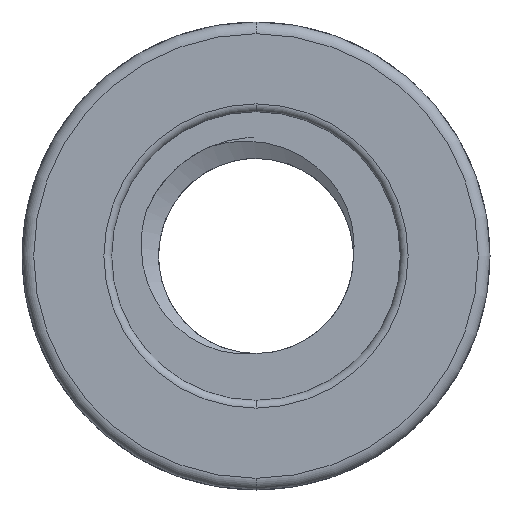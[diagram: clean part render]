
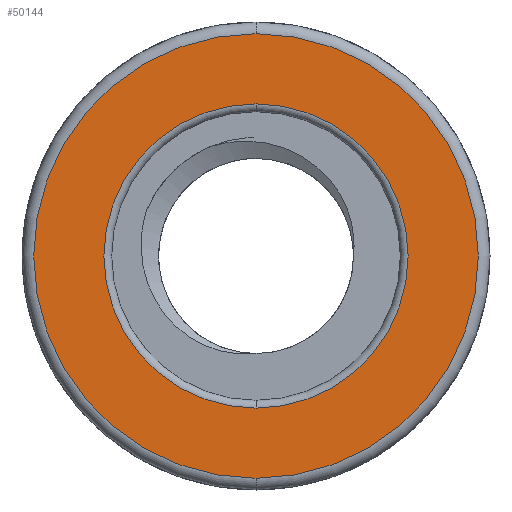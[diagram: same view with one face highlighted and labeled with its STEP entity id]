
A CAD part, front view. The second image highlights one B-rep face of the part: STEP entity #50144.
In plain terms, the highlighted planar face has unit normal (0, -1, 0).
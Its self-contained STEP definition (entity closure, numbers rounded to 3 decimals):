
#302 = EDGE_LOOP ( 'NONE', ( #4304, #44930 ) ) ;
#3355 = VERTEX_POINT ( 'NONE', #31895 ) ;
#4304 = ORIENTED_EDGE ( 'NONE', *, *, #52370, .T. ) ;
#4942 = EDGE_CURVE ( 'NONE', #26073, #3355, #31686, .T. ) ;
#5055 = CARTESIAN_POINT ( 'NONE',  ( 0., 0., 0. ) ) ;
#10519 = CIRCLE ( 'NONE', #51874, 3.9 ) ;
#12058 = CIRCLE ( 'NONE', #21655, 5.7 ) ;
#13452 = DIRECTION ( 'NONE',  ( 0., 1., 0. ) ) ;
#14029 = DIRECTION ( 'NONE',  ( 0., -1., 0. ) ) ;
#15478 = DIRECTION ( 'NONE',  ( 0., 1., 0. ) ) ;
#19506 = DIRECTION ( 'NONE',  ( 0., 0., -1. ) ) ;
#20002 = CARTESIAN_POINT ( 'NONE',  ( 0., 0., 0. ) ) ;
#20694 = ORIENTED_EDGE ( 'NONE', *, *, #56362, .T. ) ;
#21655 = AXIS2_PLACEMENT_3D ( 'NONE', #5055, #56247, #19506 ) ;
#24340 = DIRECTION ( 'NONE',  ( 0., 0., -1. ) ) ;
#24641 = DIRECTION ( 'NONE',  ( 0., -1., 0. ) ) ;
#24718 = AXIS2_PLACEMENT_3D ( 'NONE', #38476, #24641, #24340 ) ;
#24758 = CIRCLE ( 'NONE', #24718, 5.7 ) ;
#24858 = CARTESIAN_POINT ( 'NONE',  ( 0., 0., -3.9 ) ) ;
#26073 = VERTEX_POINT ( 'NONE', #24858 ) ;
#26408 = VERTEX_POINT ( 'NONE', #27541 ) ;
#26414 = FACE_OUTER_BOUND ( 'NONE', #302, .T. ) ;
#26500 = ORIENTED_EDGE ( 'NONE', *, *, #4942, .T. ) ;
#27541 = CARTESIAN_POINT ( 'NONE',  ( 0., 0., 5.7 ) ) ;
#27879 = DIRECTION ( 'NONE',  ( 0., 0., -1. ) ) ;
#28167 = DIRECTION ( 'NONE',  ( 0., 0., -1. ) ) ;
#31686 = CIRCLE ( 'NONE', #41261, 3.9 ) ;
#31895 = CARTESIAN_POINT ( 'NONE',  ( 0., 0., 3.9 ) ) ;
#32091 = CARTESIAN_POINT ( 'NONE',  ( 0., 0., -6. ) ) ;
#33842 = DIRECTION ( 'NONE',  ( 0., 0., -1. ) ) ;
#36478 = VERTEX_POINT ( 'NONE', #53401 ) ;
#36604 = FACE_BOUND ( 'NONE', #38670, .T. ) ;
#38476 = CARTESIAN_POINT ( 'NONE',  ( 0., 0., 0. ) ) ;
#38670 = EDGE_LOOP ( 'NONE', ( #26500, #20694 ) ) ;
#41261 = AXIS2_PLACEMENT_3D ( 'NONE', #59515, #13452, #28167 ) ;
#42775 = AXIS2_PLACEMENT_3D ( 'NONE', #32091, #14029, #27879 ) ;
#44930 = ORIENTED_EDGE ( 'NONE', *, *, #49873, .T. ) ;
#49873 = EDGE_CURVE ( 'NONE', #26408, #36478, #12058, .T. ) ;
#50144 = ADVANCED_FACE ( 'NONE', ( #36604, #26414 ), #55000, .T. ) ;
#51874 = AXIS2_PLACEMENT_3D ( 'NONE', #20002, #15478, #33842 ) ;
#52370 = EDGE_CURVE ( 'NONE', #36478, #26408, #24758, .T. ) ;
#53401 = CARTESIAN_POINT ( 'NONE',  ( 0., 0., -5.7 ) ) ;
#55000 = PLANE ( 'NONE',  #42775 ) ;
#56247 = DIRECTION ( 'NONE',  ( 0., -1., 0. ) ) ;
#56362 = EDGE_CURVE ( 'NONE', #3355, #26073, #10519, .T. ) ;
#59515 = CARTESIAN_POINT ( 'NONE',  ( 0., 0., 0. ) ) ;
